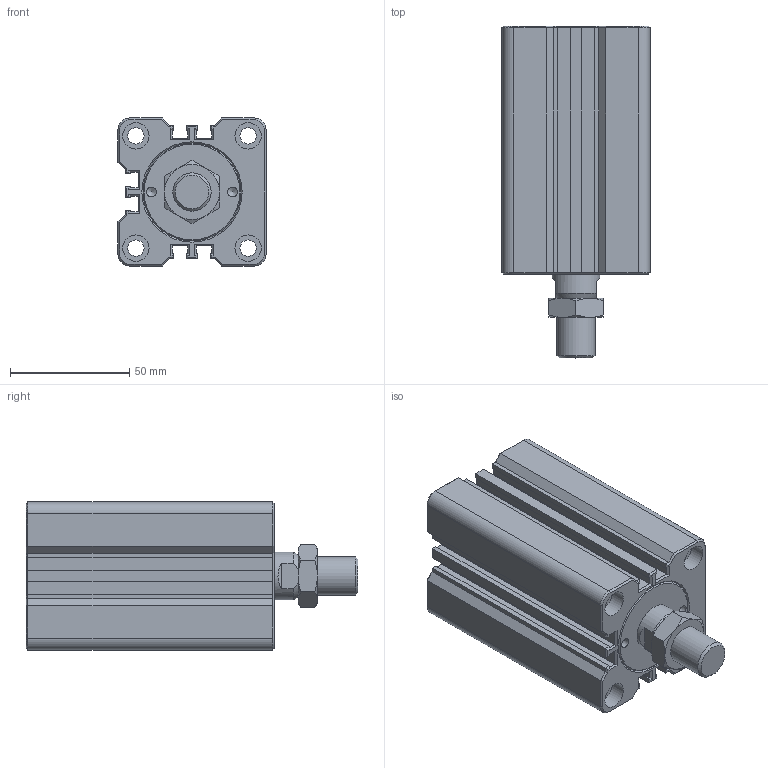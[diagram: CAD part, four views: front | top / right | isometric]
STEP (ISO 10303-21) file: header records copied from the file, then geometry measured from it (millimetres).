
FILE_DESCRIPTION(/* description */ (''),/* implementation_level */ '2;1');
FILE_NAME(/* name */ 'HTM70-SDMB32X50W',/* time_stamp */ '2019-06-05T16:25:28+08:00',/* author */ ('JEFF HUANG'),/* organization */ ('TAIWAN AMAC CLAMP INDUSTRIAL CO., LTD.'),/* preprocessor_version */ 'ST-DEVELOPER v16.7',/* originating_system */ 'DEX',/* authorisation */ $);
FILE_SCHEMA (('AUTOMOTIVE_DESIGN {1 0 10303 214 3 1 1}'));
Length unit declared in the file: millimetre
Products named in the file (1): HTM70-SDMB32X50W
Bounding box: 62 x 139 x 62 mm (x, y, z)
Volume: 344974.8 mm3; surface area: 55735.1 mm2
Topology: 1 solids, 1 shells, 341 faces, 787 edges, 470 vertices
Faces by surface type: plane 226, cone 52, bspline 36, cylinder 27
Full cylindrical faces by diameter (mm): 4.1 x2, 5 x2, 6 x1, 6.8 x4, 11 x8, 12 x2, 13 x2, 16 x1, 20 x1
Entity records: 11889 total; most frequent: CARTESIAN_POINT 2290, ORIENTED_EDGE 1472, DIRECTION 1356, EDGE_CURVE 736, LINE 492, VECTOR 492, VERTEX_POINT 458, AXIS2_PLACEMENT_3D 432
